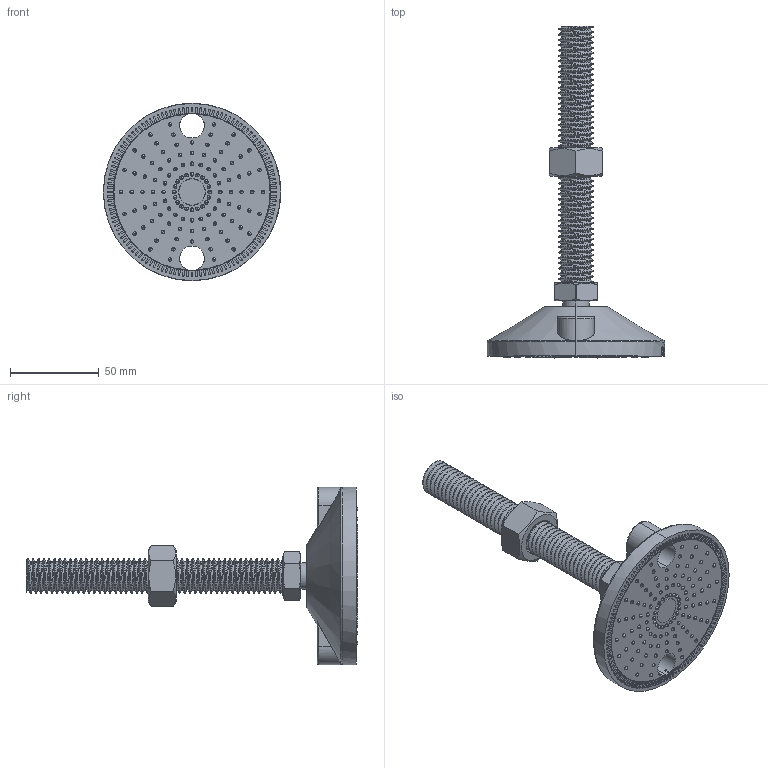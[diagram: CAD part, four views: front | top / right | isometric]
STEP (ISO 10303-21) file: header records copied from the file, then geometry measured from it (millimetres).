
FILE_DESCRIPTION (( 'STEP AP203' ), '1' );
FILE_NAME ('7933.STEP', '2025-12-16T04:55:47', ( '' ), ( '' ), 'SwSTEP 2.0', 'SolidWorks 2022', '' );
FILE_SCHEMA (( 'CONFIG_CONTROL_DESIGN' ));
Length unit declared in the file: millimetre
Products named in the file (4): Гайка DIN934_M20; 7933-1; 7933-2; 7933
Assembly tree (3 placements, depth 2):
  7933
    7933-1
    7933-2
    Гайка DIN934_M20
Bounding box: 100.01 x 187.25 x 100 mm (x, y, z)
Volume: 184996.9 mm3; surface area: 46491.2 mm2
Topology: 4 solids, 4 shells, 1169 faces, 3598 edges, 2320 vertices
Faces by surface type: plane 392, cylinder 345, sphere 246, bspline 144, cone 24, torus 18
Entity records: 59774 total; most frequent: CARTESIAN_POINT 30896, ORIENTED_EDGE 6234, DIRECTION 5760, EDGE_CURVE 3117, AXIS2_PLACEMENT_3D 2270, VERTEX_POINT 2085, EDGE_LOOP 1306, CIRCLE 1239
